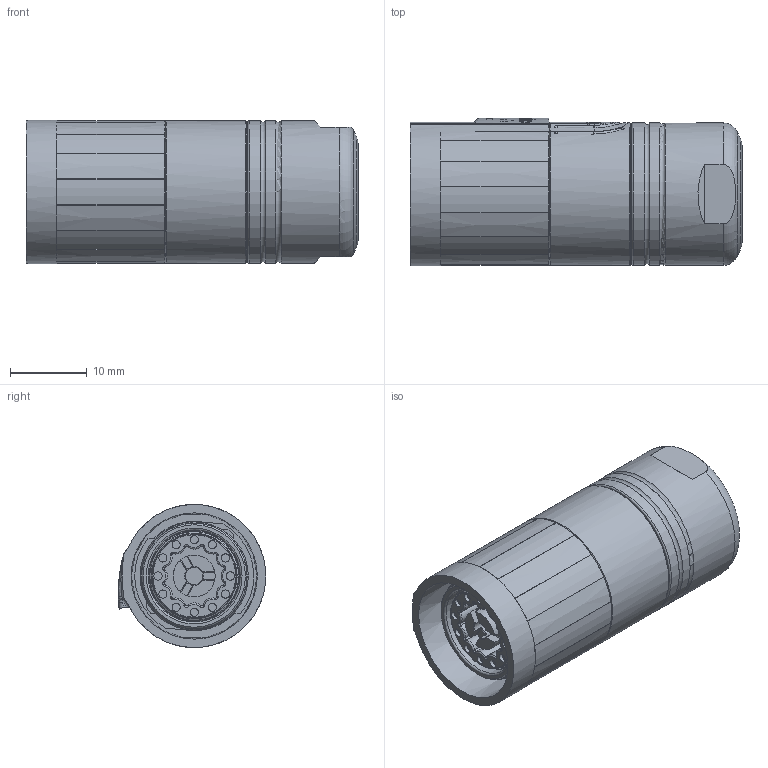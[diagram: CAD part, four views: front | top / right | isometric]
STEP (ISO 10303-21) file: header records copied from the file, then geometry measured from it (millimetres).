
FILE_DESCRIPTION((''),'2;1');
FILE_NAME('\\isfs02.intercontec.int.\desktop$\hacklm\Desktop\EST_0001.stp','2013-11-18T11:34:57',('Hacklm'),(''),'Autodesk Inventor 2011','Autodesk Inventor 2011','');
FILE_SCHEMA(('AUTOMOTIVE_DESIGN { 1 0 10303 214 1 1 1 1 }'));
Length unit declared in the file: millimetre
Products named in the file (1): 126691
Bounding box: 43.35 x 19.24 x 18.7 mm (x, y, z)
Volume: 10231.6 mm3; surface area: 5072.5 mm2
Topology: 1 solids, 1 shells, 380 faces, 924 edges, 590 vertices
Faces by surface type: plane 129, cylinder 105, bspline 65, torus 55, cone 19, sphere 7
Full cylindrical faces by diameter (mm): 1.075 x12, 2.3 x1, 2.397 x1, 5.45 x1, 10.8 x1, 11 x1, 11.75 x1, 11.8 x1, 12.25 x1, 13.295 x2, 13.77 x1, 17.2 x1, 17.45 x1, 18.6 x4
Entity records: 13601 total; most frequent: CARTESIAN_POINT 4842, ORIENTED_EDGE 1702, DIRECTION 1652, EDGE_CURVE 851, AXIS2_PLACEMENT_3D 676, VERTEX_POINT 573, EDGE_LOOP 480, FACE_OUTER_BOUND 380
